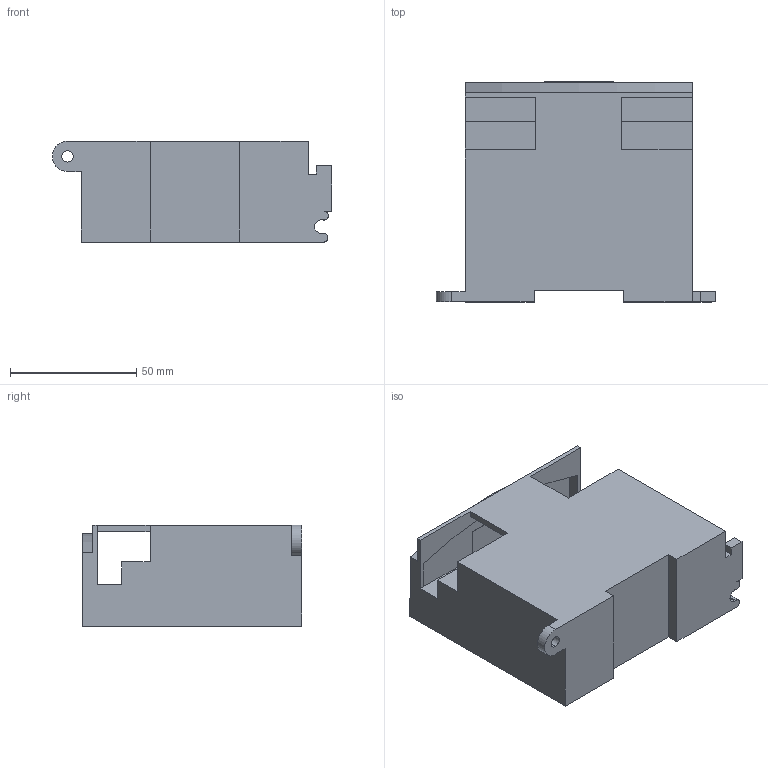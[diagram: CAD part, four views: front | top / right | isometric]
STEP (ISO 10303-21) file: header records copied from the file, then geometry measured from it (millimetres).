
FILE_DESCRIPTION (( 'STEP AP203' ), '1' );
FILE_NAME ('1762sc-IF4OF4-2.STEP', '2022-06-27T17:53:38', ( '' ), ( '' ), 'SwSTEP 2.0', 'SolidWorks 2021', '' );
FILE_SCHEMA (( 'CONFIG_CONTROL_DESIGN' ));
Length unit declared in the file: millimetre
Products named in the file (1): 1762sc-IF4OF4-2
Bounding box: 110.75 x 87.25 x 40.25 mm (x, y, z)
Volume: 260443.4 mm3; surface area: 39031.1 mm2
Topology: 1 solids, 1 shells, 626 faces, 1639 edges, 1092 vertices
Faces by surface type: plane 380, bspline 234, cylinder 12
Entity records: 31108 total; most frequent: CARTESIAN_POINT 17264, ORIENTED_EDGE 3278, DIRECTION 1981, EDGE_CURVE 1639, LINE 1147, VECTOR 1147, VERTEX_POINT 1092, EDGE_LOOP 707
